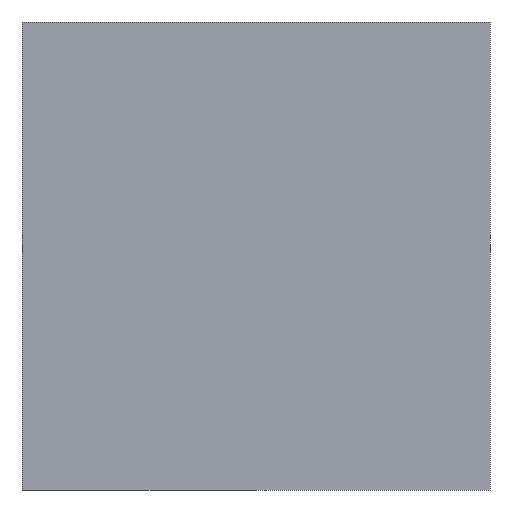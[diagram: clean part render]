
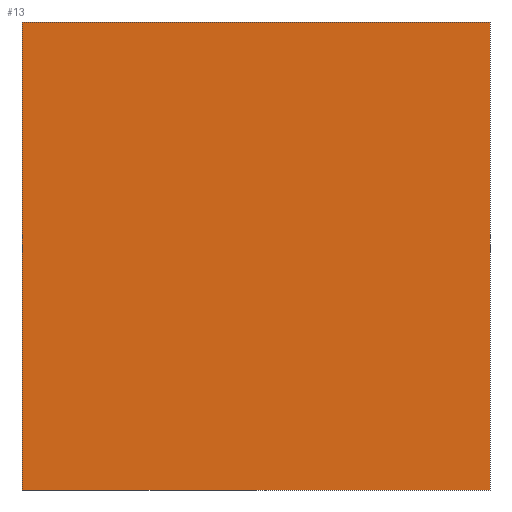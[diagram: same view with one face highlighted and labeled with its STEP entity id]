
A CAD part, left-side view. The second image highlights one B-rep face of the part: STEP entity #13.
In plain terms, the highlighted planar face has unit normal (-1, 0, 0).
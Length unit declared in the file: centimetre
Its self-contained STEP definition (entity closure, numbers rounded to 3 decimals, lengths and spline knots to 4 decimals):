
#13 = ADVANCED_FACE ( 'NONE', ( #338 ), #76, .F. ) ;
#19 = AXIS2_PLACEMENT_3D ( 'NONE', #242, #365, #374 ) ;
#24 = EDGE_CURVE ( 'NONE', #345, #258, #31, .T. ) ;
#27 = CARTESIAN_POINT ( 'NONE',  ( 0., 1000., 1000. ) ) ;
#31 = LINE ( 'NONE', #415, #67 ) ;
#34 = EDGE_CURVE ( 'NONE', #179, #213, #369, .T. ) ;
#57 = ORIENTED_EDGE ( 'NONE', *, *, #307, .F. ) ;
#62 = VECTOR ( 'NONE', #497, 100. ) ;
#67 = VECTOR ( 'NONE', #503, 100. ) ;
#72 = CARTESIAN_POINT ( 'NONE',  ( 0., 0., 1000. ) ) ;
#76 = PLANE ( 'NONE',  #19 ) ;
#157 = LINE ( 'NONE', #72, #62 ) ;
#161 = CARTESIAN_POINT ( 'NONE',  ( 0., 0., 0. ) ) ;
#164 = CARTESIAN_POINT ( 'NONE',  ( 0., 0., 1000. ) ) ;
#179 = VERTEX_POINT ( 'NONE', #27 ) ;
#187 = EDGE_CURVE ( 'NONE', #179, #345, #422, .T. ) ;
#191 = VECTOR ( 'NONE', #416, 100. ) ;
#211 = VECTOR ( 'NONE', #498, 100. ) ;
#213 = VERTEX_POINT ( 'NONE', #164 ) ;
#242 = CARTESIAN_POINT ( 'NONE',  ( 0., 1000., 1000. ) ) ;
#258 = VERTEX_POINT ( 'NONE', #161 ) ;
#261 = EDGE_LOOP ( 'NONE', ( #306, #57, #436, #352 ) ) ;
#306 = ORIENTED_EDGE ( 'NONE', *, *, #24, .T. ) ;
#307 = EDGE_CURVE ( 'NONE', #213, #258, #157, .T. ) ;
#338 = FACE_OUTER_BOUND ( 'NONE', #261, .T. ) ;
#345 = VERTEX_POINT ( 'NONE', #370 ) ;
#352 = ORIENTED_EDGE ( 'NONE', *, *, #187, .T. ) ;
#365 = DIRECTION ( 'NONE',  ( 1., 0., 0. ) ) ;
#369 = LINE ( 'NONE', #506, #211 ) ;
#370 = CARTESIAN_POINT ( 'NONE',  ( 0., 1000., 0. ) ) ;
#374 = DIRECTION ( 'NONE',  ( 0., 0., -1. ) ) ;
#415 = CARTESIAN_POINT ( 'NONE',  ( 0., 1000., 0. ) ) ;
#416 = DIRECTION ( 'NONE',  ( 0., 0., -1. ) ) ;
#422 = LINE ( 'NONE', #553, #191 ) ;
#436 = ORIENTED_EDGE ( 'NONE', *, *, #34, .F. ) ;
#497 = DIRECTION ( 'NONE',  ( 0., 0., -1. ) ) ;
#498 = DIRECTION ( 'NONE',  ( 0., -1., 0. ) ) ;
#503 = DIRECTION ( 'NONE',  ( 0., -1., 0. ) ) ;
#506 = CARTESIAN_POINT ( 'NONE',  ( 0., 1000., 1000. ) ) ;
#553 = CARTESIAN_POINT ( 'NONE',  ( 0., 1000., 1000. ) ) ;
